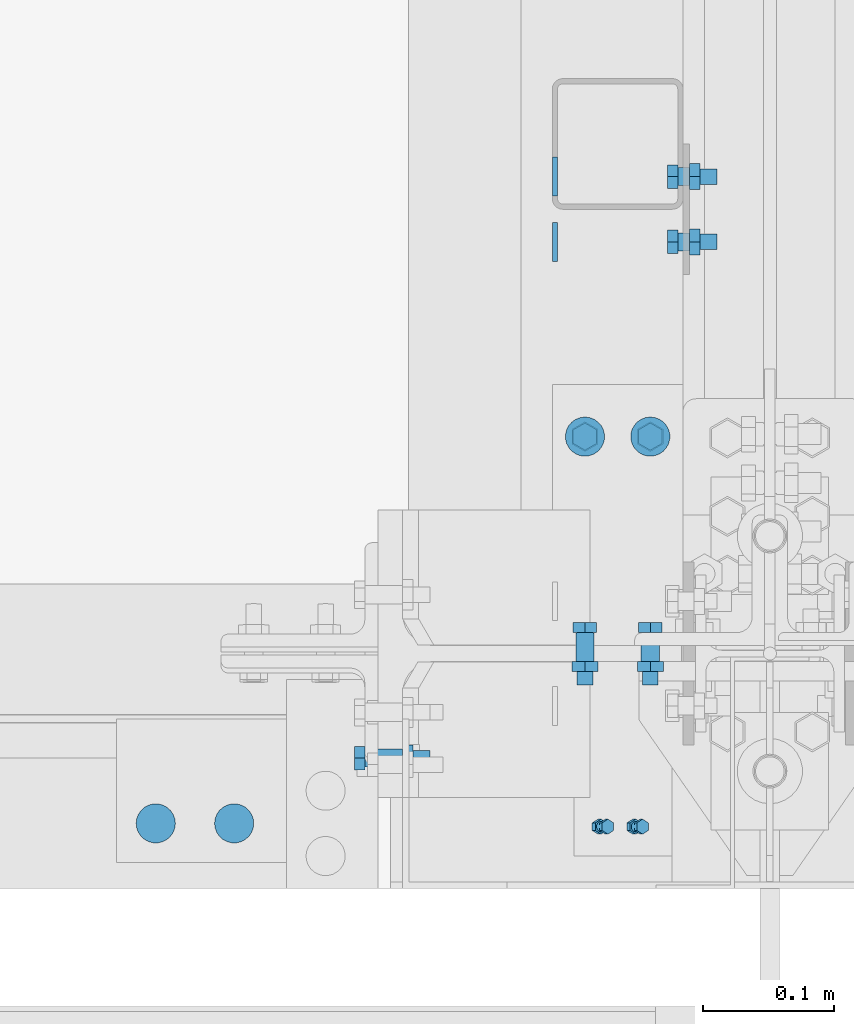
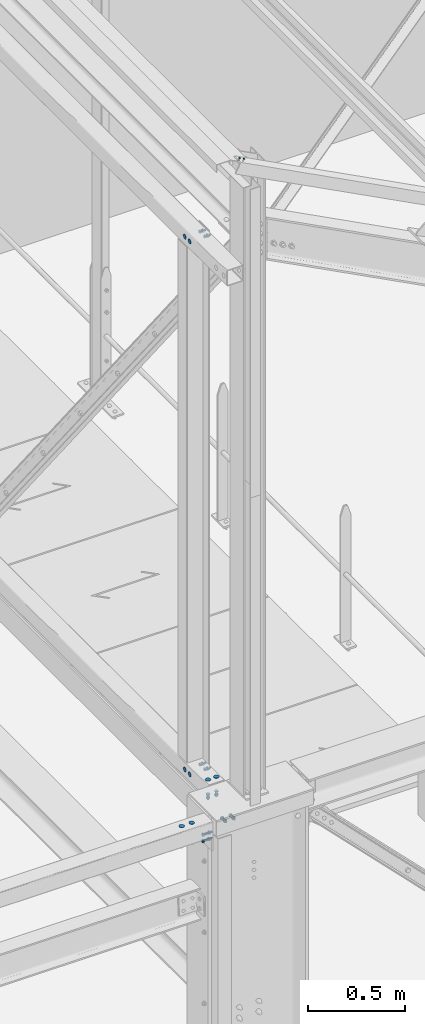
# One storey, part 218 of 362: 10 mechanical fasteners.
"""IFC2X3 building model written with IfcOpenShell, lengths in millimetres."""

from ifc_helpers import new_model, si_unit, frame, origin_with_axes, origin_2d_with_axis, place, context, subcontext, project, spatial, polyline, circle, outline, extrude, source, transform, mapped, material, type_object, element, save


model = new_model("IFC2X3")

# Units and contexts
model_context = context("Model", 3, precision=1e-05, world=origin_with_axes())
body_context = subcontext(model_context, "Body", "Model", "MODEL_VIEW")
ifc_project = project(units=[si_unit("LENGTHUNIT", "METRE", prefix="MILLI"), si_unit("AREAUNIT", "SQUARE_METRE"), si_unit("VOLUMEUNIT", "CUBIC_METRE"), si_unit("MASSUNIT", "GRAM", prefix="KILO"), si_unit("TIMEUNIT", "SECOND"), si_unit("PLANEANGLEUNIT", "RADIAN"), si_unit("SOLIDANGLEUNIT", "STERADIAN"), si_unit("THERMODYNAMICTEMPERATUREUNIT", "DEGREE_CELSIUS"), si_unit("LUMINOUSINTENSITYUNIT", "LUMEN")], contexts=[model_context])

# Site, building, storey
site_placement = place(None, origin_with_axes())
site = spatial("IfcSite", under=ifc_project, at=site_placement, Name="Undefined", CompositionType="ELEMENT")
building_placement = place(site_placement, origin_with_axes())
building = spatial("IfcBuilding", under=site, at=building_placement, Name="Undefined", CompositionType="ELEMENT")
storey_placement = place(building_placement, origin_with_axes())
storey = spatial("IfcBuildingStorey", under=building, at=storey_placement, Name="Undefined", CompositionType="ELEMENT", Elevation=0.0)

# Mechanical fasteners
ifc_material_1 = material(Name="6.8")
mechanical_fastener_type = type_object("IfcMechanicalFastenerType", Name="Bolt assembly")
shared_shape_1 = source(origin_with_axes(), body_context, "Body", "SweptSolid", [
    extrude(circle(Radius=15.0, at=origin_2d_with_axis()), frame((0.0, 0.0, 0.0), z_axis=(0.0, 1.0, 0.0), x_axis=(1.0, 0.0, 0.0)), (0.0, 0.0, 1.0), 4.1),
])
for number, where, z_axis, x_axis, name in (
    (1, (12513.5000000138, 339.9999987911, 11870.0), (0.0, -1.0, 0.0), (0.0, 0.0, -1.0), "Bolt assembly"),
    (2, (12513.5000000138, 339.9999987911, 8500.0), (0.0, 1.0, 0.0), (0.0, 0.0, 1.0), "Bolt assembly"),
    (3, (12563.5000000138, 166.0, 8550.0), (1.0, 0.0, 0.0), (0.0, -1.0, 0.0), "Bolt assembly"),
):
    element("IfcMechanicalFastener", number, at=place(storey_placement, frame(where, z_axis=z_axis, x_axis=x_axis)), inside=storey, type_object=mechanical_fastener_type, material=ifc_material_1, Name=name, NominalDiameter=30.0, NominalLength=4.0, context=body_context, shape_type="MappedRepresentation", body=[
        mapped(shared_shape_1, transform((0.0, 0.0, -25.0))),
        mapped(shared_shape_1, transform((0.0, 0.0, 25.0))),
    ])
shared_shape_2 = source(origin_with_axes(), body_context, "Body", "SweptSolid", [
    extrude(circle(Radius=4.0, at=origin_2d_with_axis()), frame((0.0, 0.0, 0.0), z_axis=(0.0, 1.0, 0.0), x_axis=(1.0, 0.0, 0.0)), (0.0, 0.0, 1.0), 7.1),
    extrude(outline(polyline([(5.7735026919, 0.0), (2.88675134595, 5.00000000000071), (-2.88675134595, 5.00000000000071), (-5.7735026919, 0.0), (-2.88675134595, -5.00000000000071), (2.88675134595, -5.00000000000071), (5.7735026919, 0.0)])), frame((0.0, -3.99999923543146, 0.0), z_axis=(0.0, 1.0, 0.0), x_axis=(1.0, 0.0, 0.0)), (0.0, 0.0, 1.0), 4.0),
    extrude(circle(Radius=3.0, at=origin_2d_with_axis()), frame((0.0, 0.0, 0.0), z_axis=(0.0, 1.0, 0.0), x_axis=(1.0, 0.0, 0.0)), (0.0, 0.0, 1.0), 16.0),
    extrude(outline(polyline([(5.7735026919, 0.0), (2.88675134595, 5.00000000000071), (-2.88675134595, 5.00000000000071), (-5.7735026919, 0.0), (-2.88675134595, -5.00000000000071), (2.88675134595, -5.00000000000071), (5.7735026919, 0.0)])), frame((0.0, 7.0, 0.0), z_axis=(0.0, 1.0, 0.0), x_axis=(1.0, 0.0, 0.0)), (0.0, 0.0, 1.0), 5.2),
])
mechanical_fastener_1_placement = place(storey_placement, frame((12567.4039737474, -132.499920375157, 12645.8458389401), z_axis=(-0.886082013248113, 9.38091927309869e-07, 0.463528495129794), x_axis=(0.0, 1.0, 0.0)))
element("IfcMechanicalFastener", 4, at=mechanical_fastener_1_placement, inside=storey, type_object=mechanical_fastener_type, material=ifc_material_1, Name="Bolt assembly", NominalDiameter=6.0, NominalLength=16.0, context=body_context, shape_type="MappedRepresentation", body=[
    mapped(shared_shape_2, transform((0.0, 0.0, -15.0))),
    mapped(shared_shape_2, transform((0.0, -3.63797880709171e-12, 15.0000000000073))),
])
ifc_material_2 = material(Name="8.8-SB-ZINGUE")
shared_shape_3 = source(origin_with_axes(), body_context, "Body", "SweptSolid", [
    extrude(circle(Radius=7.0, at=origin_2d_with_axis()), frame((0.0, -3.89999843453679, 0.0), z_axis=(0.0, 1.0, 0.0), x_axis=(1.0, 0.0, 0.0)), (0.0, 0.0, 1.0), 4.0),
    extrude(circle(Radius=7.0, at=origin_2d_with_axis()), frame((0.0, -0.100011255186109, 0.0), z_axis=(0.0, 1.0, 0.0), x_axis=(1.0, 0.0, 0.0)), (0.0, 0.0, 1.0), 10.1),
    extrude(outline(polyline([(10.39230484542, 0.0), (5.19615242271, 9.00000000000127), (-5.19615242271, 9.00000000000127), (-10.39230484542, 0.0), (-5.19615242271, -9.00000000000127), (5.19615242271, -9.00000000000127), (10.39230484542, 0.0)])), frame((0.0, -11.9199984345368, 0.0), z_axis=(0.0, 1.0, 0.0), x_axis=(1.0, 0.0, 0.0)), (0.0, 0.0, 1.0), 7.92),
    extrude(circle(Radius=6.0, at=origin_2d_with_axis()), frame((0.0, -3.99999923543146, 0.0), z_axis=(0.0, 1.0, 0.0), x_axis=(1.0, 0.0, 0.0)), (0.0, 0.0, 1.0), 30.0),
    extrude(outline(polyline([(11.5008173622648, 0.0), (5.7504086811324, 9.96000000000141), (-5.7504086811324, 9.96000000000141), (-11.5008173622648, 0.0), (-5.7504086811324, -9.96000000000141), (5.7504086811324, -9.96000000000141), (11.5008173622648, 0.0)])), frame((0.0, 10.0000000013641, 0.0), z_axis=(0.0, 1.0, 0.0), x_axis=(1.0, 0.0, 0.0)), (0.0, 0.0, 1.0), 7.92),
])
mechanical_fastener_2_placement = place(storey_placement, frame((12563.5000000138, 166.0, 8450.0), z_axis=(1.0, 0.0, 0.0), x_axis=(0.0, -1.0, 0.0)))
element("IfcMechanicalFastener", 5, at=mechanical_fastener_2_placement, inside=storey, type_object=mechanical_fastener_type, material=ifc_material_2, Name="Bolt assembly", NominalDiameter=12.0, NominalLength=30.0, context=body_context, shape_type="MappedRepresentation", body=[
    mapped(shared_shape_3, transform((0.0, 0.0, -25.0))),
    mapped(shared_shape_3, transform((0.0, 0.0, 25.0))),
])
shared_shape_4 = source(origin_with_axes(), body_context, "Body", "SweptSolid", [
    extrude(circle(Radius=15.0, at=origin_2d_with_axis()), frame((0.0, -0.00127693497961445, 0.0), z_axis=(0.0, 1.0, 0.0), x_axis=(1.0, 0.0, 0.0)), (0.0, 0.0, 1.0), 4.1),
])
mechanical_fastener_3_placement = place(storey_placement, frame((12210.0111089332, -130.000005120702, 8549.99872306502), z_axis=(0.0, 1.0, 0.0), x_axis=(1.0, 0.0, 0.0)))
element("IfcMechanicalFastener", 6, at=mechanical_fastener_3_placement, inside=storey, type_object=mechanical_fastener_type, material=ifc_material_1, Name="Bolt assembly", NominalDiameter=30.0, NominalLength=4.0, context=body_context, shape_type="MappedRepresentation", body=[
    mapped(shared_shape_4, transform((0.0, 0.0, 0.0))),
    mapped(shared_shape_4, transform((60.0, 0.0, 0.0))),
])
shared_shape_5 = source(origin_with_axes(), body_context, "Body", "SweptSolid", [
    extrude(circle(Radius=7.0, at=origin_2d_with_axis()), frame((0.0, -0.10836607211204, 0.0), z_axis=(0.0, 1.0, 0.0), x_axis=(1.0, 0.0, 0.0)), (0.0, 0.0, 1.0), 19.1),
    extrude(circle(Radius=7.0, at=origin_2d_with_axis()), frame((0.0, -9.90024512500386, 0.0), z_axis=(0.0, 1.0, 0.0), x_axis=(1.0, 0.0, 0.0)), (0.0, 0.0, 1.0), 10.0),
    extrude(outline(polyline([(10.39230484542, 0.0), (5.19615242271, 9.00000000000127), (-5.19615242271, 9.00000000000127), (-10.39230484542, 0.0), (-5.19615242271, -9.00000000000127), (5.19615242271, -9.00000000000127), (10.39230484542, 0.0)])), frame((0.0, -17.9202451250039, 0.0), z_axis=(0.0, 1.0, 0.0), x_axis=(1.0, 0.0, 0.0)), (0.0, 0.0, 1.0), 7.92),
    extrude(circle(Radius=6.0, at=origin_2d_with_axis()), frame((0.0, -10.0002451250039, 0.0), z_axis=(0.0, 1.0, 0.0), x_axis=(1.0, 0.0, 0.0)), (0.0, 0.0, 1.0), 50.0),
    extrude(outline(polyline([(11.5008173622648, 0.0), (5.7504086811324, 9.96000000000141), (-5.7504086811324, 9.96000000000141), (-11.5008173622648, 0.0), (-5.7504086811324, -9.96000000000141), (5.7504086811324, -9.96000000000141), (11.5008173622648, 0.0)])), frame((0.0, 18.991633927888, 0.0), z_axis=(0.0, 1.0, 0.0), x_axis=(1.0, 0.0, 0.0)), (0.0, 0.0, 1.0), 7.92),
])
mechanical_fastener_4_placement = place(storey_placement, frame((12380.0083140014, -80.0000085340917, 8369.99872306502), z_axis=(0.0, 1.0, 0.0), x_axis=(0.0, 0.0, 1.0)))
element("IfcMechanicalFastener", 7, at=mechanical_fastener_4_placement, inside=storey, type_object=mechanical_fastener_type, material=ifc_material_2, Name="Bolt assembly", NominalDiameter=12.0, NominalLength=50.0, context=body_context, shape_type="MappedRepresentation", body=[
    mapped(shared_shape_5, transform((0.0, 0.0, 0.0))),
    mapped(shared_shape_5, transform((40.0, 0.0, 0.0))),
])
shared_shape_6 = source(origin_with_axes(), body_context, "Body", "SweptSolid", [
    extrude(circle(Radius=7.0, at=origin_2d_with_axis()), frame((0.0, -0.100011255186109, 0.0), z_axis=(0.0, 1.0, 0.0), x_axis=(1.0, 0.0, 0.0)), (0.0, 0.0, 1.0), 12.1),
    extrude(circle(Radius=7.0, at=origin_2d_with_axis()), frame((0.0, -9.9, 0.0), z_axis=(0.0, 1.0, 0.0), x_axis=(1.0, 0.0, 0.0)), (0.0, 0.0, 1.0), 10.0),
    extrude(outline(polyline([(10.39230484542, 0.0), (5.19615242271, 9.00000000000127), (-5.19615242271, 9.00000000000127), (-10.39230484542, 0.0), (-5.19615242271, -9.00000000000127), (5.19615242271, -9.00000000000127), (10.39230484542, 0.0)])), frame((0.0, -17.92, 0.0), z_axis=(0.0, 1.0, 0.0), x_axis=(1.0, 0.0, 0.0)), (0.0, 0.0, 1.0), 7.92),
    extrude(circle(Radius=6.0, at=origin_2d_with_axis()), frame((0.0, -10.0000010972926, 0.0), z_axis=(0.0, 1.0, 0.0), x_axis=(1.0, 0.0, 0.0)), (0.0, 0.0, 1.0), 40.0),
    extrude(outline(polyline([(11.5008173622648, 0.0), (5.7504086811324, 9.96000000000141), (-5.7504086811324, 9.96000000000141), (-11.5008173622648, 0.0), (-5.7504086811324, -9.96000000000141), (5.7504086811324, -9.96000000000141), (11.5008173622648, 0.0)])), frame((0.0, 12.0000270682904, 0.0), z_axis=(0.0, 1.0, 0.0), x_axis=(1.0, 0.0, 0.0)), (0.0, 0.0, 1.0), 7.92),
])
mechanical_fastener_5_placement = place(storey_placement, frame((12563.5000000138, 6.0, 8395.0), z_axis=(1.0, 0.0, 0.0), x_axis=(0.0, 0.0, 1.0)))
element("IfcMechanicalFastener", 8, at=mechanical_fastener_5_placement, inside=storey, type_object=mechanical_fastener_type, material=ifc_material_2, Name="Bolt assembly", NominalDiameter=12.0, NominalLength=40.0, context=body_context, shape_type="MappedRepresentation", body=[
    mapped(shared_shape_6, transform((0.0, 0.0, -25.0))),
    mapped(shared_shape_6, transform((0.0, 0.0, 25.0))),
])
shared_shape_7 = source(origin_with_axes(), body_context, "Body", "SweptSolid", [
    extrude(circle(Radius=7.0, at=origin_2d_with_axis()), frame((0.0, -3.89999843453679, 0.0), z_axis=(0.0, 1.0, 0.0), x_axis=(1.0, 0.0, 0.0)), (0.0, 0.0, 1.0), 4.0),
    extrude(circle(Radius=7.0, at=origin_2d_with_axis()), frame((0.0, -0.0998569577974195, 0.0), z_axis=(0.0, 1.0, 0.0), x_axis=(1.0, 0.0, 0.0)), (0.0, 0.0, 1.0), 5.1),
    extrude(outline(polyline([(10.39230484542, 0.0), (5.19615242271, 9.00000000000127), (-5.19615242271, 9.00000000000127), (-10.39230484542, 0.0), (-5.19615242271, -9.00000000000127), (5.19615242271, -9.00000000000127), (10.39230484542, 0.0)])), frame((0.0, -11.9199984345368, 0.0), z_axis=(0.0, 1.0, 0.0), x_axis=(1.0, 0.0, 0.0)), (0.0, 0.0, 1.0), 7.92),
    extrude(circle(Radius=6.0, at=origin_2d_with_axis()), frame((0.0, -3.99999923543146, 0.0), z_axis=(0.0, 1.0, 0.0), x_axis=(1.0, 0.0, 0.0)), (0.0, 0.0, 1.0), 30.0),
    extrude(outline(polyline([(11.5008173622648, 0.0), (5.7504086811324, 9.96000000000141), (-5.7504086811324, 9.96000000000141), (-11.5008173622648, 0.0), (-5.7504086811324, -9.96000000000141), (5.7504086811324, -9.96000000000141), (11.5008173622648, 0.0)])), frame((0.0, 5.00010437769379, 0.0), z_axis=(0.0, 1.0, 0.0), x_axis=(1.0, 0.0, 0.0)), (0.0, 0.0, 1.0), 7.92),
])
for number, where, z_axis, x_axis, name in (
    (9, (12613.5000000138, 339.9999987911, 8500.0), (0.0, 1.0, 0.0), (0.0, 0.0, 1.0), "Bolt assembly"),
    (10, (12613.5000000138, 339.9999987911, 11870.0), (0.0, -1.0, 0.0), (0.0, 0.0, -1.0), "Bolt assembly"),
):
    element("IfcMechanicalFastener", number, at=place(storey_placement, frame(where, z_axis=z_axis, x_axis=x_axis)), inside=storey, type_object=mechanical_fastener_type, material=ifc_material_2, Name=name, NominalDiameter=12.0, NominalLength=30.0, context=body_context, shape_type="MappedRepresentation", body=[
        mapped(shared_shape_7, transform((0.0, 0.0, -25.0))),
        mapped(shared_shape_7, transform((0.0, 0.0, 25.0))),
    ])

save(model, "model.ifc")
